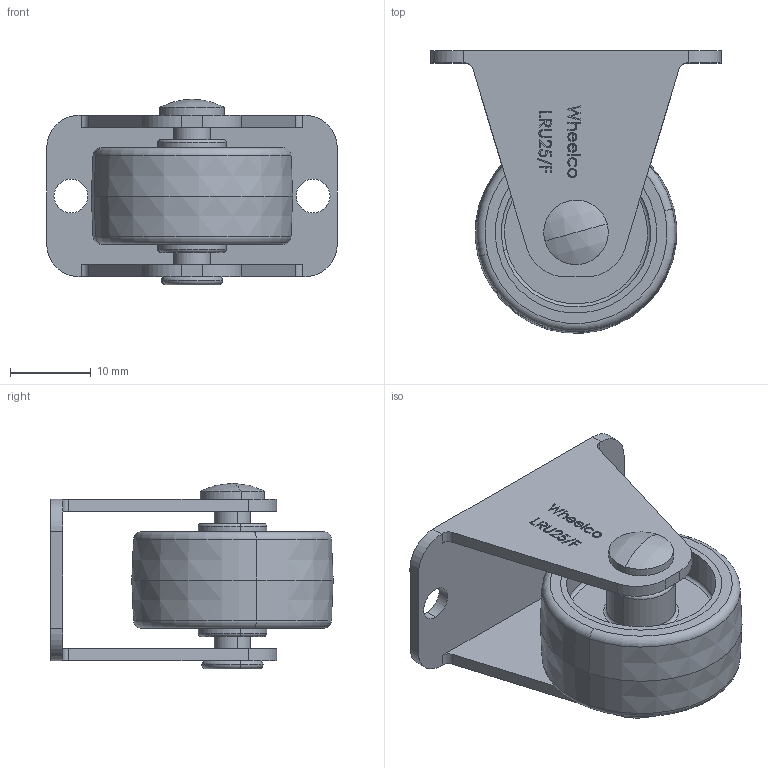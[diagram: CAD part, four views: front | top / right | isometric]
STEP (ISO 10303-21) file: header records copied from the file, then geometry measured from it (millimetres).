
FILE_DESCRIPTION (( 'STEP AP214' ), '1' );
FILE_NAME ('LRU25-F.step', '2024-01-15T01:44:15', ( '' ), ( '' ), 'SwSTEP 2.0', 'SolidWorks 2022', '' );
FILE_SCHEMA (( 'AUTOMOTIVE_DESIGN' ));
Length unit declared in the file: millimetre
Products named in the file (4): LRU25-F FORK; LRU BOLT; LRU25-F; LRU25
Assembly tree (3 placements, depth 2):
  LRU25-F
    LRU25-F FORK
    LRU25
    LRU BOLT
Bounding box: 36 x 34.97 x 23 mm (x, y, z)
Volume: 6654.8 mm3; surface area: 6754.2 mm2
Topology: 3 solids, 3 shells, 264 faces, 672 edges, 441 vertices
Faces by surface type: plane 126, bspline 72, cylinder 36, torus 24, cone 4, sphere 2
Entity records: 12256 total; most frequent: CARTESIAN_POINT 5583, ORIENTED_EDGE 1344, DIRECTION 1058, EDGE_CURVE 672, VERTEX_POINT 441, VECTOR 394, LINE 394, AXIS2_PLACEMENT_3D 332
